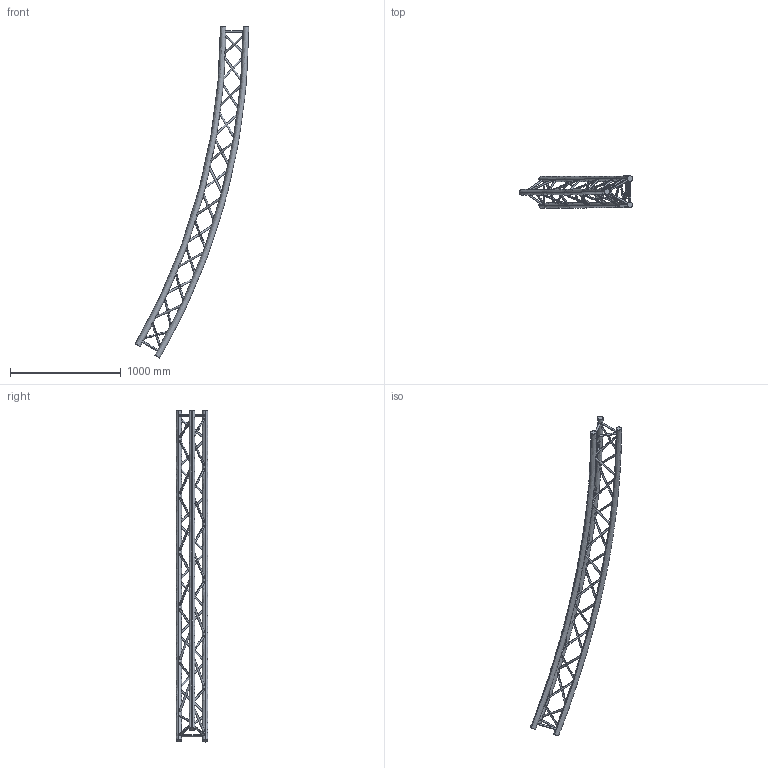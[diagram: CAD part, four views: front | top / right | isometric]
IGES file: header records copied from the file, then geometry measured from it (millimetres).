
Start section: SolidWorks IGES file using analytic representation for surfaces
Global section: file name: K:\BIBLIO\asd_biblio\SX290\Cercles\SXC29PI\SXC291200PI\SXC291200PI.IGS; native system: SolidWorks 2009; preprocessor: SolidWorks 2009; author: des3; date: 091021.110226; units: millimetre
Bounding box: 1024.9 x 287 x 3000 mm (x, y, z)
Surface area: 1991618.5 mm2 (no closed solid volume)
Topology: 0 solids, 0 shells, 96 faces, 6789 edges, 6789 vertices
Faces by surface type: revolution 84, bspline 12
